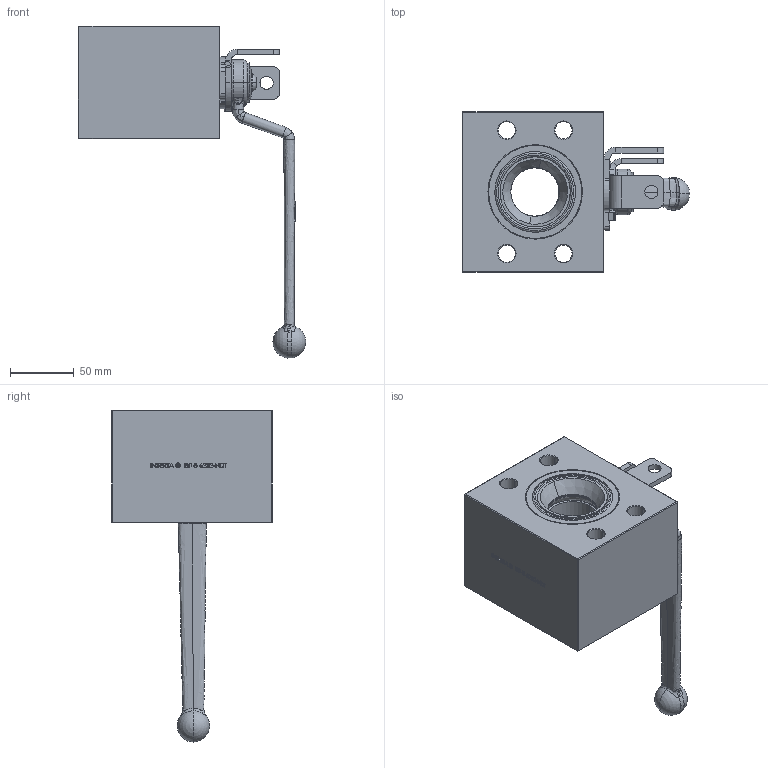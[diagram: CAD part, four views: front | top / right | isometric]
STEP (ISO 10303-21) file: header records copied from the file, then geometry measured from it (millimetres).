
FILE_DESCRIPTION (( 'STEP AP214' ), '1' );
FILE_NAME ('IBF-B-6232-N-D-T OPEN.STEP', '2026-02-19T16:38:33', ( '' ), ( '' ), 'SwSTEP 2.0', 'SolidWorks 2025', '' );
FILE_SCHEMA (( 'AUTOMOTIVE_DESIGN' ));
Products named in the file (1): IBF-B-6232-N-D-T OPEN
Bounding box: 178.36 x 125.86 x 260.45 mm (x, y, z)
Volume: 1126756.5 mm3; surface area: 171912.6 mm2
Topology: 2 solids, 3 shells, 1084 faces, 3042 edges, 1991 vertices
Faces by surface type: plane 506, bspline 195, cylinder 187, torus 88, cone 81, sphere 27
Entity records: 60085 total; most frequent: CARTESIAN_POINT 34074, ORIENTED_EDGE 6058, DIRECTION 4540, EDGE_CURVE 3029, VERTEX_POINT 1988, AXIS2_PLACEMENT_3D 1587, LINE 1366, VECTOR 1366
